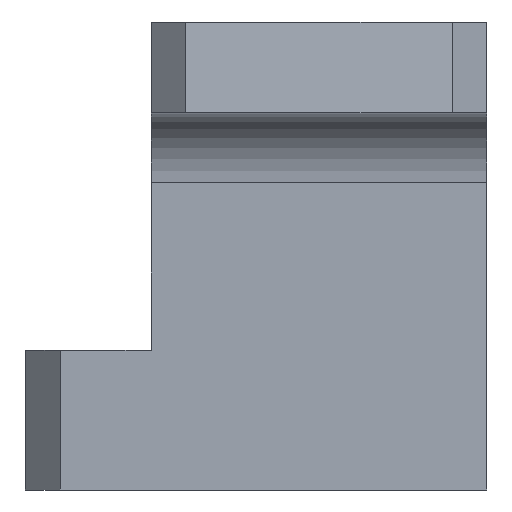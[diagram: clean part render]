
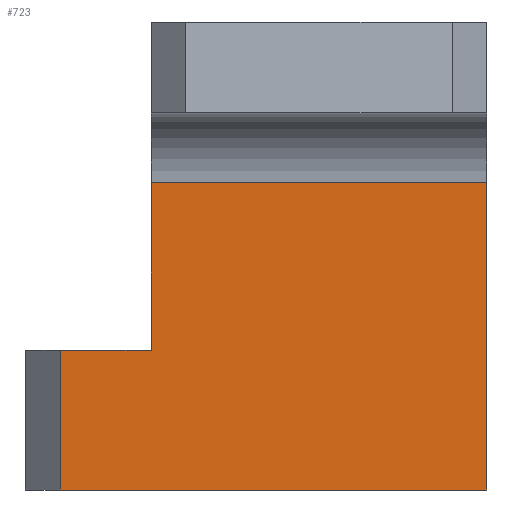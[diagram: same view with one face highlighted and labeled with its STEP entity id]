
A CAD part, front view. The second image highlights one B-rep face of the part: STEP entity #723.
In plain terms, the highlighted planar face has unit normal (0, -1, 0).
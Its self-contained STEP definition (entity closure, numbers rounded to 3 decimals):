
#215=FACE_OUTER_BOUND('',#251,.T.);
#251=EDGE_LOOP('',(#635,#636,#637,#638,#639,#640));
#272=LINE('',#988,#331);
#290=LINE('',#1032,#349);
#303=LINE('',#1065,#362);
#307=LINE('',#1073,#366);
#314=LINE('',#1089,#373);
#319=LINE('',#1182,#378);
#331=VECTOR('',#820,10.);
#349=VECTOR('',#852,10.);
#362=VECTOR('',#883,10.);
#366=VECTOR('',#891,10.);
#373=VECTOR('',#908,10.);
#378=VECTOR('',#927,10.);
#390=VERTEX_POINT('',#985);
#391=VERTEX_POINT('',#987);
#409=VERTEX_POINT('',#1029);
#410=VERTEX_POINT('',#1031);
#418=VERTEX_POINT('',#1058);
#421=VERTEX_POINT('',#1063);
#446=EDGE_CURVE('',#391,#390,#272,.T.);
#468=EDGE_CURVE('',#410,#409,#290,.T.);
#485=EDGE_CURVE('',#421,#418,#303,.T.);
#489=EDGE_CURVE('',#409,#418,#307,.T.);
#498=EDGE_CURVE('',#410,#390,#314,.T.);
#510=EDGE_CURVE('',#421,#391,#319,.T.);
#635=ORIENTED_EDGE('',*,*,#485,.F.);
#636=ORIENTED_EDGE('',*,*,#510,.T.);
#637=ORIENTED_EDGE('',*,*,#446,.T.);
#638=ORIENTED_EDGE('',*,*,#498,.F.);
#639=ORIENTED_EDGE('',*,*,#468,.T.);
#640=ORIENTED_EDGE('',*,*,#489,.T.);
#700=PLANE('',#787);
#723=ADVANCED_FACE('',(#215),#700,.T.);
#787=AXIS2_PLACEMENT_3D('',#1181,#925,#926);
#820=DIRECTION('',(0.,0.,1.));
#852=DIRECTION('',(0.,0.,-1.));
#883=DIRECTION('',(0.,0.,1.));
#891=DIRECTION('',(-1.,0.,0.));
#908=DIRECTION('',(1.,0.,0.));
#925=DIRECTION('center_axis',(0.,-1.,0.));
#926=DIRECTION('ref_axis',(1.,0.,0.));
#927=DIRECTION('',(1.,0.,0.));
#985=CARTESIAN_POINT('',(33.,-25.25,44.));
#987=CARTESIAN_POINT('',(33.,-25.25,0.));
#988=CARTESIAN_POINT('',(33.,-25.25,0.));
#1029=CARTESIAN_POINT('',(-15.,-25.25,20.));
#1031=CARTESIAN_POINT('',(-15.,-25.25,44.));
#1032=CARTESIAN_POINT('',(-15.,-25.25,21.75));
#1058=CARTESIAN_POINT('',(-28.,-25.25,20.));
#1063=CARTESIAN_POINT('',(-28.,-25.25,0.));
#1065=CARTESIAN_POINT('',(-28.,-25.25,0.));
#1073=CARTESIAN_POINT('',(-33.,-25.25,20.));
#1089=CARTESIAN_POINT('',(-16.5,-25.25,44.));
#1181=CARTESIAN_POINT('Origin',(-33.,-25.25,0.));
#1182=CARTESIAN_POINT('',(-33.,-25.25,0.));
